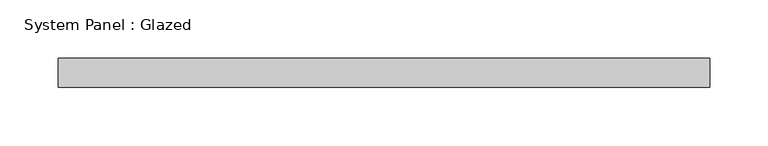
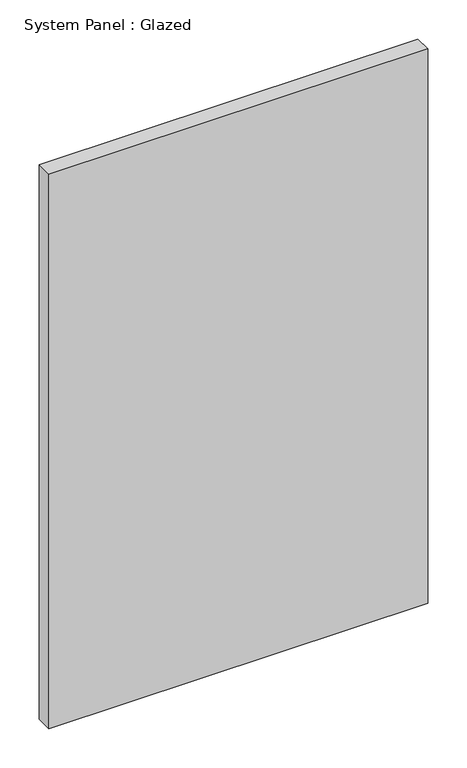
"""IFC4 building model written with IfcOpenShell, lengths in millimetres: plate geometry, System Panel : Glazed."""

from ifc_helpers import new_model, si_unit, origin, origin_with_axes, place, context, project, spatial, polyline, outline, extrude, source, transform, mapped, element, save


def system_panel_glazed_54fbfc96(model_context):
    return source(origin(), model_context, "Body", "SweptSolid", [
        extrude(outline(polyline([(280.0, 24.5), (-280.0, 24.5), (-280.0, 49.5), (280.0, 49.5), (280.0, 24.5)])), origin_with_axes(), (0.0, 0.0, 1.0), 866.6666667),
    ])


if __name__ == "__main__":
    model = new_model("IFC4")
    model_context = context("Model", 3, world=origin())
    ifc_project = project(units=[si_unit("LENGTHUNIT", "METRE", prefix="MILLI")], contexts=[model_context])
    site = spatial("IfcSite", under=ifc_project)
    building = spatial("IfcBuilding", under=site)
    placement = place(None, origin())
    system_panel_glazed_shape = system_panel_glazed_54fbfc96(model_context)
    element("IfcPlate", 1, ObjectType="System Panel : Glazed", at=placement, inside=building, context=model_context, shape_type="MappedRepresentation", body=[
        mapped(system_panel_glazed_shape, transform((0.0, 0.0, 0.0), x_axis=(1.0, 0.0, 0.0), y_axis=(0.0, 1.0, 0.0), z_axis=(0.0, 0.0, 1.0))),
    ])
    save(model, "model.ifc")
